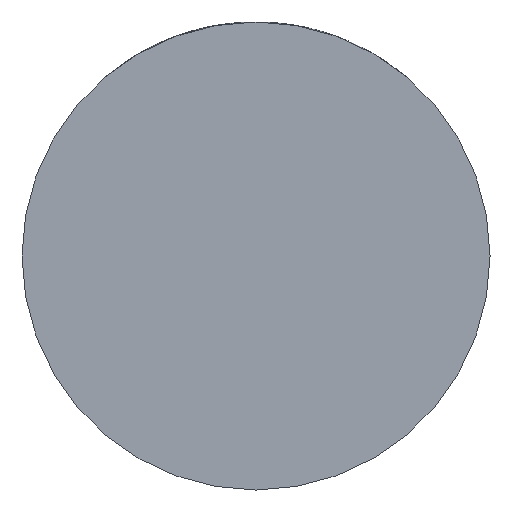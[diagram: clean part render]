
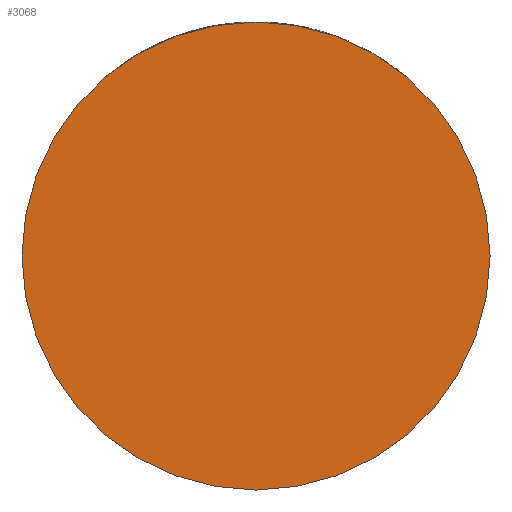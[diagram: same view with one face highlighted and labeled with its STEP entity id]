
A CAD part, front view. The second image highlights one B-rep face of the part: STEP entity #3068.
In plain terms, the highlighted planar face has unit normal (0, -1, 0).
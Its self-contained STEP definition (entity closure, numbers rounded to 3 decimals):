
#283 = ORIENTED_EDGE ( 'NONE', *, *, #1489, .T. ) ;
#645 = AXIS2_PLACEMENT_3D ( 'NONE', #3278, #4271, #903 ) ;
#833 = AXIS2_PLACEMENT_3D ( 'NONE', #4107, #4421, #2699 ) ;
#869 = AXIS2_PLACEMENT_3D ( 'NONE', #2983, #4346, #4003 ) ;
#903 = DIRECTION ( 'NONE',  ( 1., 0., 0. ) ) ;
#989 = CARTESIAN_POINT ( 'NONE',  ( -32., -28., 0. ) ) ;
#1489 = EDGE_CURVE ( 'NONE', #3162, #1689, #2353, .T. ) ;
#1689 = VERTEX_POINT ( 'NONE', #2261 ) ;
#2261 = CARTESIAN_POINT ( 'NONE',  ( 32., -28., 0. ) ) ;
#2342 = FACE_OUTER_BOUND ( 'NONE', #2405, .T. ) ;
#2353 = CIRCLE ( 'NONE', #833, 32. ) ;
#2405 = EDGE_LOOP ( 'NONE', ( #283, #4266 ) ) ;
#2419 = EDGE_CURVE ( 'NONE', #1689, #3162, #2578, .T. ) ;
#2578 = CIRCLE ( 'NONE', #645, 32. ) ;
#2699 = DIRECTION ( 'NONE',  ( 1., 0., 0. ) ) ;
#2983 = CARTESIAN_POINT ( 'NONE',  ( 0., -28., 0. ) ) ;
#3068 = ADVANCED_FACE ( 'NONE', ( #2342 ), #3321, .T. ) ;
#3162 = VERTEX_POINT ( 'NONE', #989 ) ;
#3278 = CARTESIAN_POINT ( 'NONE',  ( 0., -28., 0. ) ) ;
#3321 = PLANE ( 'NONE',  #869 ) ;
#4003 = DIRECTION ( 'NONE',  ( 1., 0., 0. ) ) ;
#4107 = CARTESIAN_POINT ( 'NONE',  ( 0., -28., 0. ) ) ;
#4266 = ORIENTED_EDGE ( 'NONE', *, *, #2419, .T. ) ;
#4271 = DIRECTION ( 'NONE',  ( 0., -1., 0. ) ) ;
#4346 = DIRECTION ( 'NONE',  ( 0., -1., 0. ) ) ;
#4421 = DIRECTION ( 'NONE',  ( 0., -1., 0. ) ) ;
